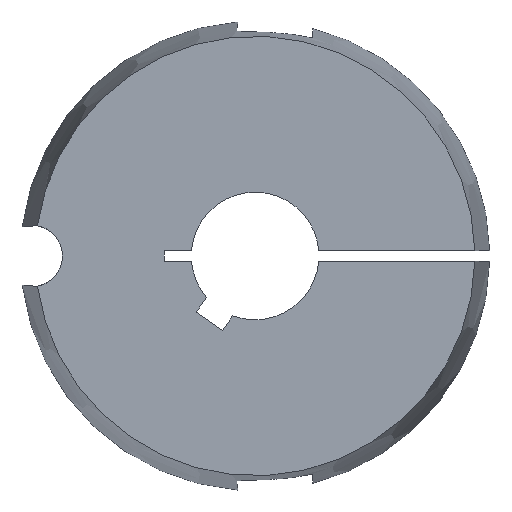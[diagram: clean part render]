
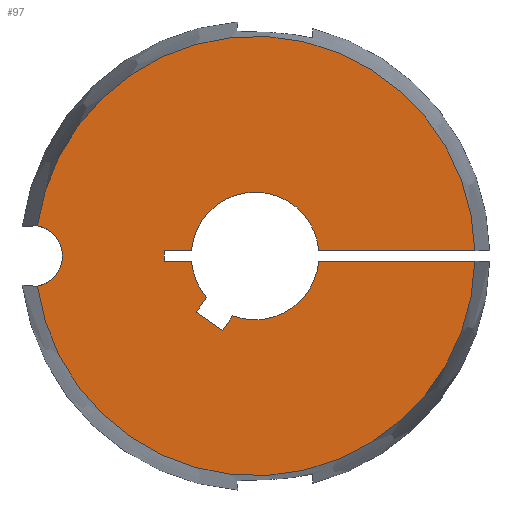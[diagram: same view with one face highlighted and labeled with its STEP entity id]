
A CAD part, left-side view. The second image highlights one B-rep face of the part: STEP entity #97.
In plain terms, the highlighted planar face has unit normal (-1, 0, 0).
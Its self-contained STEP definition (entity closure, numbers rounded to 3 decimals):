
#97 = ADVANCED_FACE( '', ( #148 ), #149, .T. );
#148 = FACE_OUTER_BOUND( '', #204, .T. );
#149 = PLANE( '', #205 );
#204 = EDGE_LOOP( '', ( #398, #399, #400, #401, #402, #403, #404, #405, #406, #407, #408, #409, #410, #411, #412, #413 ) );
#205 = AXIS2_PLACEMENT_3D( '', #414, #415, #416 );
#398 = ORIENTED_EDGE( '', *, *, #495, .T. );
#399 = ORIENTED_EDGE( '', *, *, #459, .T. );
#400 = ORIENTED_EDGE( '', *, *, #484, .T. );
#401 = ORIENTED_EDGE( '', *, *, #518, .T. );
#402 = ORIENTED_EDGE( '', *, *, #520, .T. );
#403 = ORIENTED_EDGE( '', *, *, #521, .T. );
#404 = ORIENTED_EDGE( '', *, *, #522, .T. );
#405 = ORIENTED_EDGE( '', *, *, #523, .T. );
#406 = ORIENTED_EDGE( '', *, *, #515, .T. );
#407 = ORIENTED_EDGE( '', *, *, #510, .T. );
#408 = ORIENTED_EDGE( '', *, *, #511, .T. );
#409 = ORIENTED_EDGE( '', *, *, #514, .T. );
#410 = ORIENTED_EDGE( '', *, *, #524, .T. );
#411 = ORIENTED_EDGE( '', *, *, #455, .T. );
#412 = ORIENTED_EDGE( '', *, *, #519, .T. );
#413 = ORIENTED_EDGE( '', *, *, #492, .T. );
#414 = CARTESIAN_POINT( '', ( -31.8, 16.388, 0. ) );
#415 = DIRECTION( '', ( -1., 0., 0. ) );
#416 = DIRECTION( '', ( 0., 1., 0. ) );
#455 = EDGE_CURVE( '', #529, #533, #535, .T. );
#459 = EDGE_CURVE( '', #537, #541, #543, .T. );
#484 = EDGE_CURVE( '', #541, #584, #586, .T. );
#492 = EDGE_CURVE( '', #598, #596, #599, .T. );
#495 = EDGE_CURVE( '', #596, #537, #603, .T. );
#510 = EDGE_CURVE( '', #625, #627, #629, .T. );
#511 = EDGE_CURVE( '', #627, #630, #631, .T. );
#514 = EDGE_CURVE( '', #630, #633, #635, .T. );
#515 = EDGE_CURVE( '', #636, #625, #637, .T. );
#518 = EDGE_CURVE( '', #584, #639, #641, .T. );
#519 = EDGE_CURVE( '', #533, #598, #642, .T. );
#520 = EDGE_CURVE( '', #639, #643, #644, .T. );
#521 = EDGE_CURVE( '', #643, #645, #646, .T. );
#522 = EDGE_CURVE( '', #645, #647, #648, .T. );
#523 = EDGE_CURVE( '', #647, #636, #649, .T. );
#524 = EDGE_CURVE( '', #633, #529, #650, .T. );
#529 = VERTEX_POINT( '', #655 );
#533 = VERTEX_POINT( '', #660 );
#535 = CIRCLE( '', #663, 9.525 );
#537 = VERTEX_POINT( '', #665 );
#541 = VERTEX_POINT( '', #670 );
#543 = CIRCLE( '', #681, 4.6 );
#584 = VERTEX_POINT( '', #864 );
#586 = CIRCLE( '', #875, 32.776 );
#596 = VERTEX_POINT( '', #927 );
#598 = VERTEX_POINT( '', #938 );
#599 = CIRCLE( '', #939, 32.776 );
#603 = CIRCLE( '', #952, 4.6 );
#625 = VERTEX_POINT( '', #982 );
#627 = VERTEX_POINT( '', #985 );
#629 = LINE( '', #988, #989 );
#630 = VERTEX_POINT( '', #990 );
#631 = LINE( '', #991, #992 );
#633 = VERTEX_POINT( '', #995 );
#635 = LINE( '', #998, #999 );
#636 = VERTEX_POINT( '', #1000 );
#637 = CIRCLE( '', #1001, 9.525 );
#639 = VERTEX_POINT( '', #1004 );
#641 = LINE( '', #1007, #1008 );
#642 = LINE( '', #1009, #1010 );
#643 = VERTEX_POINT( '', #1011 );
#644 = CIRCLE( '', #1012, 9.525 );
#645 = VERTEX_POINT( '', #1013 );
#646 = LINE( '', #1014, #1015 );
#647 = VERTEX_POINT( '', #1016 );
#648 = LINE( '', #1017, #1018 );
#649 = LINE( '', #1019, #1020 );
#650 = CIRCLE( '', #1021, 9.525 );
#655 = CARTESIAN_POINT( '', ( -31.8, -7.24, 6.189 ) );
#660 = CARTESIAN_POINT( '', ( -31.8, -9.495, 0.75 ) );
#663 = AXIS2_PLACEMENT_3D( '', #1033, #1034, #1035 );
#665 = CARTESIAN_POINT( '', ( -31.8, 28.74, 0. ) );
#670 = CARTESIAN_POINT( '', ( -31.8, 32.464, -4.516 ) );
#681 = AXIS2_PLACEMENT_3D( '', #1040, #1041, #1042 );
#864 = CARTESIAN_POINT( '', ( -31.8, -32.768, -0.75 ) );
#875 = AXIS2_PLACEMENT_3D( '', #1076, #1077, #1078 );
#927 = CARTESIAN_POINT( '', ( -31.8, 32.464, 4.516 ) );
#938 = CARTESIAN_POINT( '', ( -31.8, -32.768, 0.75 ) );
#939 = AXIS2_PLACEMENT_3D( '', #1091, #1092, #1093 );
#952 = AXIS2_PLACEMENT_3D( '', #1097, #1098, #1099 );
#982 = CARTESIAN_POINT( '', ( -31.8, 9.495, -0.75 ) );
#985 = CARTESIAN_POINT( '', ( -31.8, 13.525, -0.75 ) );
#988 = CARTESIAN_POINT( '', ( -31.8, 8.194, -0.75 ) );
#989 = VECTOR( '', #1122, 1. );
#990 = CARTESIAN_POINT( '', ( -31.8, 13.525, 0.75 ) );
#991 = CARTESIAN_POINT( '', ( -31.8, 13.525, -0.375 ) );
#992 = VECTOR( '', #1123, 1. );
#995 = CARTESIAN_POINT( '', ( -31.8, 9.495, 0.75 ) );
#998 = CARTESIAN_POINT( '', ( -31.8, 14.957, 0.75 ) );
#999 = VECTOR( '', #1126, 1. );
#1000 = CARTESIAN_POINT( '', ( -31.8, 7.24, -6.189 ) );
#1001 = AXIS2_PLACEMENT_3D( '', #1127, #1128, #1129 );
#1004 = CARTESIAN_POINT( '', ( -31.8, -9.495, -0.75 ) );
#1007 = CARTESIAN_POINT( '', ( -31.8, -9.306, -0.75 ) );
#1008 = VECTOR( '', #1132, 1. );
#1009 = CARTESIAN_POINT( '', ( -31.8, 8.194, 0.75 ) );
#1010 = VECTOR( '', #1133, 1. );
#1011 = CARTESIAN_POINT( '', ( -31.8, 3.339, -8.92 ) );
#1012 = AXIS2_PLACEMENT_3D( '', #1134, #1135, #1136 );
#1013 = CARTESIAN_POINT( '', ( -31.8, 4.879, -11.119 ) );
#1014 = CARTESIAN_POINT( '', ( -31.8, 3.39, -8.993 ) );
#1015 = VECTOR( '', #1137, 1. );
#1016 = CARTESIAN_POINT( '', ( -31.8, 8.78, -8.387 ) );
#1017 = CARTESIAN_POINT( '', ( -31.8, 11.352, -6.586 ) );
#1018 = VECTOR( '', #1138, 1. );
#1019 = CARTESIAN_POINT( '', ( -31.8, 8.061, -7.361 ) );
#1020 = VECTOR( '', #1139, 1. );
#1021 = AXIS2_PLACEMENT_3D( '', #1140, #1141, #1142 );
#1033 = CARTESIAN_POINT( '', ( -31.8, 0., 0. ) );
#1034 = DIRECTION( '', ( 1., 0., 0. ) );
#1035 = DIRECTION( '', ( 0., 0.76, -0.65 ) );
#1040 = CARTESIAN_POINT( '', ( -31.8, 33.34, 0. ) );
#1041 = DIRECTION( '', ( 1., 0., 0. ) );
#1042 = DIRECTION( '', ( 0., 1., 0. ) );
#1076 = CARTESIAN_POINT( '', ( -31.8, 0., 0. ) );
#1077 = DIRECTION( '', ( -1., 0., 0. ) );
#1078 = DIRECTION( '', ( 0., 1., 0. ) );
#1091 = CARTESIAN_POINT( '', ( -31.8, 0., 0. ) );
#1092 = DIRECTION( '', ( -1., 0., 0. ) );
#1093 = DIRECTION( '', ( 0., 1., 0. ) );
#1097 = CARTESIAN_POINT( '', ( -31.8, 33.34, 0. ) );
#1098 = DIRECTION( '', ( 1., 0., 0. ) );
#1099 = DIRECTION( '', ( 0., 1., 0. ) );
#1122 = DIRECTION( '', ( 0., 1., 0. ) );
#1123 = DIRECTION( '', ( 0., 0., 1. ) );
#1126 = DIRECTION( '', ( 0., -1., 0. ) );
#1127 = CARTESIAN_POINT( '', ( -31.8, 0., 0. ) );
#1128 = DIRECTION( '', ( 1., 0., 0. ) );
#1129 = DIRECTION( '', ( 0., 0.76, -0.65 ) );
#1132 = DIRECTION( '', ( 0., 1., 0. ) );
#1133 = DIRECTION( '', ( 0., -1., 0. ) );
#1134 = CARTESIAN_POINT( '', ( -31.8, 0., 0. ) );
#1135 = DIRECTION( '', ( 1., 0., 0. ) );
#1136 = DIRECTION( '', ( 0., 0.76, -0.65 ) );
#1137 = DIRECTION( '', ( 0., 0.574, -0.819 ) );
#1138 = DIRECTION( '', ( 0., 0.819, 0.574 ) );
#1139 = DIRECTION( '', ( 0., -0.574, 0.819 ) );
#1140 = CARTESIAN_POINT( '', ( -31.8, 0., 0. ) );
#1141 = DIRECTION( '', ( 1., 0., 0. ) );
#1142 = DIRECTION( '', ( 0., 0.76, -0.65 ) );
